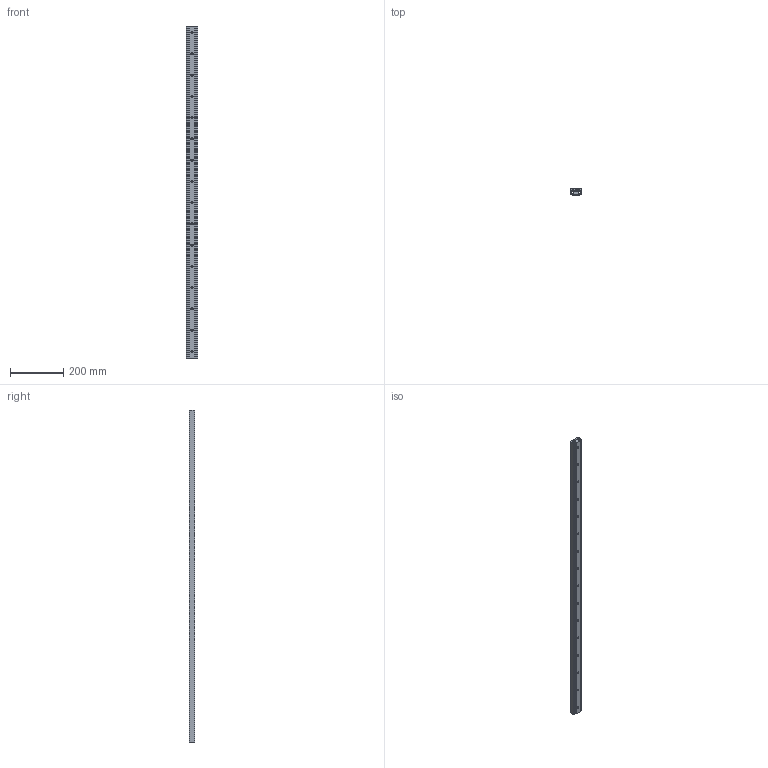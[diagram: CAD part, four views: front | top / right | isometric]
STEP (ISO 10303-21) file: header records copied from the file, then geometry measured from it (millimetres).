
FILE_DESCRIPTION(('STEP AP214'),'1');
FILE_NAME('rail_asn43-1250_00.stp','2017-06-06T10:18:33',('TraceParts'),('TraceParts S.A.'),'Spatial InterOp 3D',' ',' ');
FILE_SCHEMA(('automotive_design'));
Length unit declared in the file: millimetre
Products named in the file (2): rail_asn43-1250_00_1; rail_asn43-1250_00_2
Bounding box: 43 x 22.01 x 1250 mm (x, y, z)
Volume: 760839.6 mm3; surface area: 294456.2 mm2
Topology: 2 solids, 2 shells, 237 faces, 588 edges, 360 vertices
Faces by surface type: cone 96, cylinder 95, plane 46
Entity records: 7198 total; most frequent: DIRECTION 1352, CARTESIAN_POINT 1187, ORIENTED_EDGE 1176, EDGE_CURVE 588, AXIS2_PLACEMENT_3D 525, VERTEX_POINT 360, EDGE_LOOP 306, LINE 302
